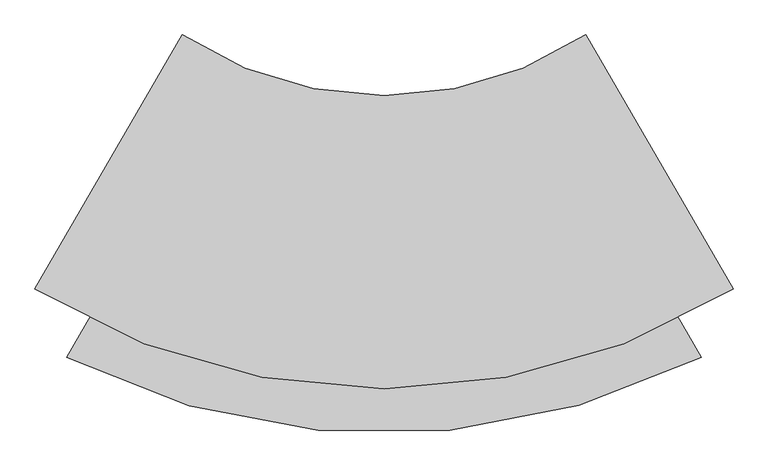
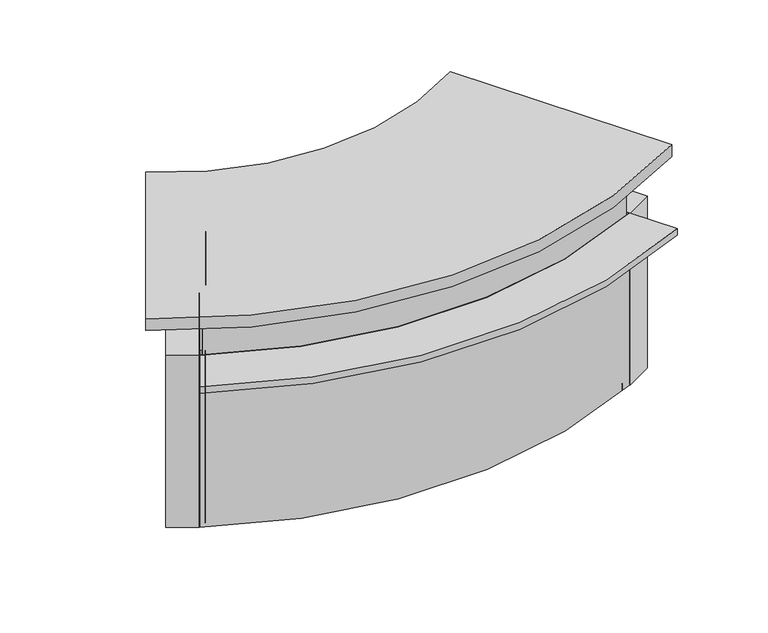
"""IFC4 building model written with IfcOpenShell, lengths in millimetres: furniture geometry, BK Library - Exlibris - 60 - Counter : BK Library - Exlibris - 60 - Counter."""

from ifc_helpers import new_model, si_unit, point, frame, frame_2d, origin, origin_with_axes, place, context, project, spatial, polyline, circle_curve, trimmed, segment, composite_curve, outline, extrude, source, transform, mapped, element, save


def furniture_ac1112f0(model_context):
    return source(origin(), model_context, "Body", "SweptSolid", [
        extrude(outline(composite_curve([segment(polyline([(-660.5665988, -165.4232659), (-615.3765888, -87.3007837)]), True, "CONTINUOUS"), segment(trimmed(circle_curve(frame_2d((-0.2165141, 1194.4047851)), 1421.686), [point((-615.3765888, -87.3007837))], [point((608.6798347, -90.2882985))], True, "CARTESIAN"), True, "CONTINUOUS"), segment(polyline([(608.6798347, -90.2882985), (653.8863445, -168.4393047)]), True, "CONTINUOUS"), segment(trimmed(circle_curve(frame_2d((-0.2165141, 1194.4047851)), 1511.686), [point((653.8863445, -168.4393047))], [point((-660.5665988, -165.4232659))], False, "CARTESIAN"), True, "CONTINUOUS")], self_intersect=False)), frame((0.0, 0.0, 669.0), z_axis=(0.0, 0.0, 1.0), x_axis=(1.0, 0.0, 0.0)), (0.0, 0.0, 1.0), 22.0),
        extrude(outline(composite_curve([segment(polyline([(-660.5665988, -165.4232659), (-640.484056, -130.7054579)]), True, "CONTINUOUS"), segment(trimmed(circle_curve(frame_2d((-0.2165129, 1194.4052925)), 1471.6864569), [point((-640.484056, -130.7054579))], [point((633.7967198, -133.7092539))], True, "CARTESIAN"), True, "CONTINUOUS"), segment(polyline([(633.7967198, -133.7092539), (653.8863445, -168.4393047)]), True, "CONTINUOUS"), segment(trimmed(circle_curve(frame_2d((-0.2165129, 1194.4052925)), 1511.6864569), [point((653.8863445, -168.4393047))], [point((-660.5665988, -165.4232659))], False, "CARTESIAN"), True, "CONTINUOUS")], self_intersect=False)), frame((0.0, 0.0, 139.0000153), z_axis=(0.0, 0.0, 1.0), x_axis=(1.0, 0.0, 0.0)), (0.0, 0.0, 1.0), 22.0),
        extrude(outline(composite_curve([segment(polyline([(-650.5333174, -176.0970393), (-601.1800654, -90.7773292)]), True, "CONTINUOUS"), segment(trimmed(circle_curve(frame_2d((-0.2165129, 1194.4052925)), 1418.75), [point((-601.1800654, -90.7773292))], [point((600.6380664, -90.8282805))], True, "CARTESIAN"), True, "CONTINUOUS"), segment(polyline([(600.6380664, -90.8282805), (650.0868787, -176.3131909)]), True, "CONTINUOUS"), segment(trimmed(circle_curve(frame_2d((0.0048745, 1196.2737646)), 1518.75), [point((650.0868787, -176.3131909))], [point((-650.5333174, -176.0970393))], False, "CARTESIAN"), True, "CONTINUOUS")], self_intersect=False)), origin_with_axes(), (0.0, 0.0, 1.0), 22.0000153),
        extrude(outline(composite_curve([segment(polyline([(680.1664184, -164.814729), (755.3980917, -294.8719045)]), True, "CONTINUOUS"), segment(trimmed(circle_curve(frame_2d((-0.2165129, 1194.4052925)), 1670.0), [point((755.3980917, -294.8719045))], [point((-755.4963219, -295.0417224))], False, "CARTESIAN"), True, "CONTINUOUS"), segment(polyline([(-755.4963219, -295.0417224), (-680.2636251, -164.9827776)]), True, "CONTINUOUS"), segment(trimmed(circle_curve(frame_2d((-0.2165129, 1194.4052925)), 1520.0), [point((-680.2636251, -164.9827776))], [point((680.1664184, -164.814729))], True, "CARTESIAN"), True, "CONTINUOUS")], self_intersect=False)), frame((0.0, 0.0, 553.0000153), z_axis=(0.0, 0.0, 1.0), x_axis=(1.0, 0.0, 0.0)), (0.0, 0.0, 1.0), 22.0),
        extrude(outline(composite_curve([segment(trimmed(circle_curve(frame_2d((0.0, 1199.0151888)), 870.0), [point((-481.0, 474.0745016))], [point((481.0, 474.0745016))], True, "CARTESIAN"), True, "CONTINUOUS"), segment(polyline([(481.0, 474.0745016), (831.5, -131.8543309)]), True, "CONTINUOUS"), segment(trimmed(circle_curve(frame_2d((0.0, 1199.8767794)), 1570.0), [point((831.5, -131.8543309))], [point((-831.5, -131.8543309))], False, "CARTESIAN"), True, "CONTINUOUS"), segment(polyline([(-831.5, -131.8543309), (-481.0, 474.0745016)]), True, "CONTINUOUS")], self_intersect=False)), frame((0.0, 0.0, 691.0), z_axis=(0.0, 0.0, 1.0), x_axis=(1.0, 0.0, 0.0)), (0.0, 0.0, 1.0), 39.0),
        extrude(outline(polyline([(-379.1783349, 355.5201012), (-680.858692, -166.011501), (-760.9278592, -119.6954296), (-459.247502, 401.8361726), (-379.1783349, 355.5201012)])), origin_with_axes(), (0.0, 0.0, 1.0), 575.0000153),
        extrude(outline(polyline([(680.858692, -166.011501), (379.1783349, 355.5201012), (459.247502, 401.8361726), (760.9278592, -119.6954296), (680.858692, -166.011501)])), origin_with_axes(), (0.0, 0.0, 1.0), 575.0000153),
        extrude(outline(composite_curve([segment(polyline([(-655.1133903, -154.0576619), (-668.1408602, -146.5219119), (-678.5163205, -164.4585468)]), True, "CONTINUOUS"), segment(trimmed(circle_curve(frame_2d((-0.2165129, 1194.4052925)), 1518.75), [point((-678.5163205, -164.4585468))], [point((677.9757126, -164.5122428))], True, "CARTESIAN"), True, "CONTINUOUS"), segment(polyline([(677.9757126, -164.5122428), (667.6016724, -146.5747866), (654.573606, -154.1095052), (653.9477988, -153.0274398), (668.0579306, -144.866914), (679.7229766, -165.0366116)]), True, "CONTINUOUS"), segment(trimmed(circle_curve(frame_2d((-0.2165129, 1194.4052925)), 1520.0), [point((679.7229766, -165.0366116))], [point((-680.263626, -164.9827772))], False, "CARTESIAN"), True, "CONTINUOUS"), segment(polyline([(-680.263626, -164.9827772), (-668.5969831, -144.8140032), (-654.4874974, -152.9756461), (-655.1133903, -154.0576619)]), True, "CONTINUOUS")], self_intersect=False)), origin_with_axes(), (0.0, 0.0, 1.0), 575.0000153),
        extrude(outline(composite_curve([segment(polyline([(-670.9733149, -163.6670088), (-669.6448086, -160.9772)]), True, "CONTINUOUS"), segment(trimmed(circle_curve(frame_2d((-0.2165129, 1194.4052925)), 1511.6864569), [point((-669.6448086, -160.9772))], [point((668.2743326, -161.4398069))], True, "CARTESIAN"), True, "CONTINUOUS"), segment(polyline([(668.2743326, -161.4398069), (669.6009784, -164.1305338)]), True, "CONTINUOUS"), segment(trimmed(circle_curve(frame_2d((-0.2165129, 1194.4052925)), 1514.6864569), [point((669.6009784, -164.1305338))], [point((-670.9733149, -163.6670088))], False, "CARTESIAN"), True, "CONTINUOUS")], self_intersect=False)), frame((0.0, 0.0, 139.0000153), z_axis=(0.0, 0.0, 1.0), x_axis=(1.0, 0.0, 0.0)), (0.0, 0.0, 1.0), 551.9999847),
        extrude(outline(polyline([(-621.0571898, 89.6531335), (-570.9857613, 176.2143953), (-519.0490042, 146.1715381), (-569.1204328, 59.6102764), (-621.0571898, 89.6531335)])), frame((0.0, 0.0, 575.0000153), z_axis=(0.0, 0.0, 1.0), x_axis=(1.0, 0.0, 0.0)), (0.0, 0.0, 1.0), 111.9999847),
        extrude(outline(polyline([(569.1204328, 59.6102764), (519.0490042, 146.1715381), (570.9857613, 176.2143953), (621.0571898, 89.6531335), (569.1204328, 59.6102764)])), frame((0.0, 0.0, 575.0000153), z_axis=(0.0, 0.0, 1.0), x_axis=(1.0, 0.0, 0.0)), (0.0, 0.0, 1.0), 111.9999847),
        extrude(outline(polyline([(-452.4974101, 194.3185559), (-577.6759815, -22.0845986), (-687.608784, 41.5061157), (-562.4302125, 257.9092702), (-452.4974101, 194.3185559)])), frame((0.0, 0.0, 687.0), z_axis=(0.0, 0.0, 1.0), x_axis=(1.0, 0.0, 0.0)), (0.0, 0.0, 1.0), 4.0),
        extrude(outline(polyline([(562.4302125, 257.9092702), (687.608784, 41.5061157), (577.6759815, -22.0845986), (452.4974101, 194.3185559), (562.4302125, 257.9092702)])), frame((0.0, 0.0, 687.0), z_axis=(0.0, 0.0, 1.0), x_axis=(1.0, 0.0, 0.0)), (0.0, 0.0, 1.0), 4.0),
    ])


if __name__ == "__main__":
    model = new_model("IFC4")
    model_context = context("Model", 3, world=origin())
    ifc_project = project(units=[si_unit("LENGTHUNIT", "METRE", prefix="MILLI")], contexts=[model_context])
    site = spatial("IfcSite", under=ifc_project)
    building = spatial("IfcBuilding", under=site)
    placement = place(None, origin())
    furniture_shape = furniture_ac1112f0(model_context)
    element("IfcFurniture", 1, ObjectType="BK Library - Exlibris - 60 - Counter : BK Library - Exlibris - 60 - Counter", at=placement, inside=building, context=model_context, shape_type="MappedRepresentation", body=[
        mapped(furniture_shape, transform((0.0, 0.0, 0.0), x_axis=(1.0, 0.0, 0.0), y_axis=(0.0, 1.0, 0.0), z_axis=(0.0, 0.0, 1.0))),
    ])
    save(model, "model.ifc")
